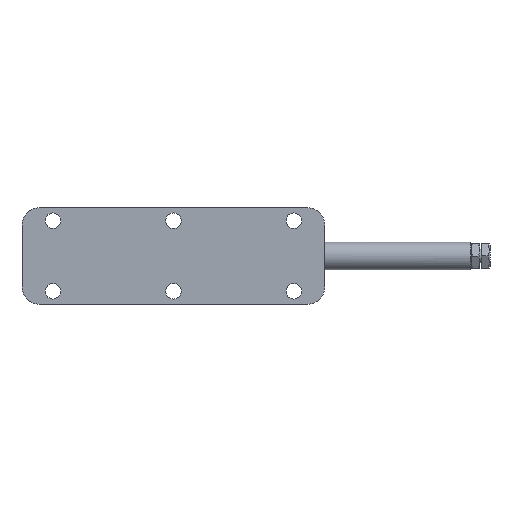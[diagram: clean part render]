
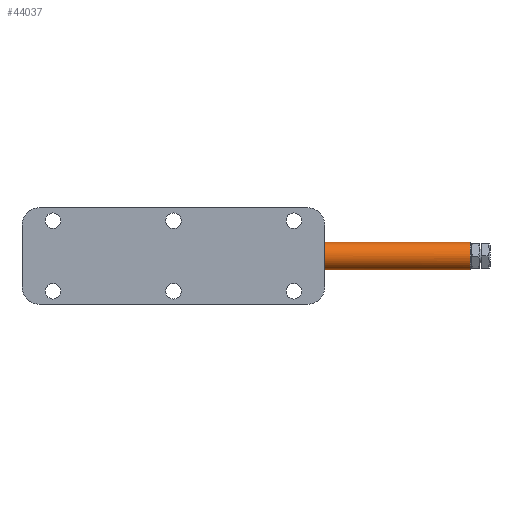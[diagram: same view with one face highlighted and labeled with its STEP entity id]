
A CAD part, front view. The second image highlights one B-rep face of the part: STEP entity #44037.
In plain terms, the highlighted cylindrical face has radius 8 mm (diameter 16 mm), a partial arc.
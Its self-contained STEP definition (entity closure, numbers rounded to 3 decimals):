
#994 = VERTEX_POINT ( 'NONE', #3269 ) ;
#2023 = EDGE_CURVE ( 'NONE', #37181, #2197, #18987, .T. ) ;
#2197 = VERTEX_POINT ( 'NONE', #39248 ) ;
#3269 = CARTESIAN_POINT ( 'NONE',  ( 121., -7.416, 3. ) ) ;
#3432 = DIRECTION ( 'NONE',  ( 0., 0., 1. ) ) ;
#4403 = CARTESIAN_POINT ( 'NONE',  ( 251., 0., -8. ) ) ;
#5675 = CIRCLE ( 'NONE', #39146, 8. ) ;
#5807 = ORIENTED_EDGE ( 'NONE', *, *, #2023, .F. ) ;
#5931 = CARTESIAN_POINT ( 'NONE',  ( 251., 0., 0. ) ) ;
#6246 = VECTOR ( 'NONE', #35275, 1000. ) ;
#6300 = ORIENTED_EDGE ( 'NONE', *, *, #40195, .T. ) ;
#7275 = DIRECTION ( 'NONE',  ( 1., 0., 0. ) ) ;
#8124 = CARTESIAN_POINT ( 'NONE',  ( 250.5, 0., 8. ) ) ;
#9231 = AXIS2_PLACEMENT_3D ( 'NONE', #10373, #34293, #13849 ) ;
#10373 = CARTESIAN_POINT ( 'NONE',  ( 121., 0., 0. ) ) ;
#10581 = VECTOR ( 'NONE', #17684, 1000. ) ;
#12732 = CARTESIAN_POINT ( 'NONE',  ( 251., -7.416, 3. ) ) ;
#12770 = EDGE_CURVE ( 'NONE', #994, #35327, #34207, .T. ) ;
#12910 = DIRECTION ( 'NONE',  ( 0., 0., 1. ) ) ;
#13045 = ORIENTED_EDGE ( 'NONE', *, *, #21916, .T. ) ;
#13286 = VECTOR ( 'NONE', #23027, 1000. ) ;
#13849 = DIRECTION ( 'NONE',  ( 0., 0., 1. ) ) ;
#16386 = ORIENTED_EDGE ( 'NONE', *, *, #12770, .F. ) ;
#16515 = CYLINDRICAL_SURFACE ( 'NONE', #36226, 8. ) ;
#17684 = DIRECTION ( 'NONE',  ( -1., 0., 0. ) ) ;
#17904 = VECTOR ( 'NONE', #35194, 1000. ) ;
#18663 = LINE ( 'NONE', #38094, #10581 ) ;
#18839 = CARTESIAN_POINT ( 'NONE',  ( 251., -7.416, -3. ) ) ;
#18987 = LINE ( 'NONE', #18839, #17904 ) ;
#19048 = AXIS2_PLACEMENT_3D ( 'NONE', #44522, #24034, #3432 ) ;
#19982 = CIRCLE ( 'NONE', #9231, 8. ) ;
#20348 = CARTESIAN_POINT ( 'NONE',  ( 250.5, 0., 0. ) ) ;
#20454 = EDGE_CURVE ( 'NONE', #33172, #2197, #5675, .T. ) ;
#21291 = CARTESIAN_POINT ( 'NONE',  ( 106.5, -7.416, 3. ) ) ;
#21576 = EDGE_LOOP ( 'NONE', ( #35470, #13045, #6300, #16386, #24737, #41170, #5807, #39706 ) ) ;
#21916 = EDGE_CURVE ( 'NONE', #27541, #34265, #29287, .T. ) ;
#22373 = LINE ( 'NONE', #12732, #13286 ) ;
#23027 = DIRECTION ( 'NONE',  ( 1., 0., 0. ) ) ;
#23265 = CARTESIAN_POINT ( 'NONE',  ( 121., 0., -8. ) ) ;
#23783 = DIRECTION ( 'NONE',  ( 0., 0., -1. ) ) ;
#24034 = DIRECTION ( 'NONE',  ( -1., 0., 0. ) ) ;
#24737 = ORIENTED_EDGE ( 'NONE', *, *, #41059, .F. ) ;
#26940 = CARTESIAN_POINT ( 'NONE',  ( 121., 0., 8. ) ) ;
#27541 = VERTEX_POINT ( 'NONE', #39462 ) ;
#27829 = CARTESIAN_POINT ( 'NONE',  ( 106.5, 0., 0. ) ) ;
#29287 = CIRCLE ( 'NONE', #32892, 8. ) ;
#29674 = VERTEX_POINT ( 'NONE', #23265 ) ;
#31286 = DIRECTION ( 'NONE',  ( 0., 0., -1. ) ) ;
#32892 = AXIS2_PLACEMENT_3D ( 'NONE', #20348, #44273, #23783 ) ;
#33172 = VERTEX_POINT ( 'NONE', #21291 ) ;
#33587 = LINE ( 'NONE', #4403, #6246 ) ;
#34207 = CIRCLE ( 'NONE', #19048, 8. ) ;
#34265 = VERTEX_POINT ( 'NONE', #8124 ) ;
#34293 = DIRECTION ( 'NONE',  ( -1., 0., 0. ) ) ;
#35194 = DIRECTION ( 'NONE',  ( -1., 0., 0. ) ) ;
#35275 = DIRECTION ( 'NONE',  ( -1., 0., 0. ) ) ;
#35327 = VERTEX_POINT ( 'NONE', #26940 ) ;
#35470 = ORIENTED_EDGE ( 'NONE', *, *, #40781, .F. ) ;
#35736 = FACE_OUTER_BOUND ( 'NONE', #21576, .T. ) ;
#36226 = AXIS2_PLACEMENT_3D ( 'NONE', #5931, #36912, #12910 ) ;
#36815 = CARTESIAN_POINT ( 'NONE',  ( 121., -7.416, -3. ) ) ;
#36912 = DIRECTION ( 'NONE',  ( -1., 0., 0. ) ) ;
#37181 = VERTEX_POINT ( 'NONE', #36815 ) ;
#37318 = EDGE_CURVE ( 'NONE', #29674, #37181, #19982, .T. ) ;
#38094 = CARTESIAN_POINT ( 'NONE',  ( 251., 0., 8. ) ) ;
#39146 = AXIS2_PLACEMENT_3D ( 'NONE', #27829, #7275, #31286 ) ;
#39248 = CARTESIAN_POINT ( 'NONE',  ( 106.5, -7.416, -3. ) ) ;
#39462 = CARTESIAN_POINT ( 'NONE',  ( 250.5, 0., -8. ) ) ;
#39706 = ORIENTED_EDGE ( 'NONE', *, *, #37318, .F. ) ;
#40195 = EDGE_CURVE ( 'NONE', #34265, #35327, #18663, .T. ) ;
#40781 = EDGE_CURVE ( 'NONE', #27541, #29674, #33587, .T. ) ;
#41059 = EDGE_CURVE ( 'NONE', #33172, #994, #22373, .T. ) ;
#41170 = ORIENTED_EDGE ( 'NONE', *, *, #20454, .T. ) ;
#44037 = ADVANCED_FACE ( 'NONE', ( #35736 ), #16515, .T. ) ;
#44273 = DIRECTION ( 'NONE',  ( -1., 0., 0. ) ) ;
#44522 = CARTESIAN_POINT ( 'NONE',  ( 121., 0., 0. ) ) ;
